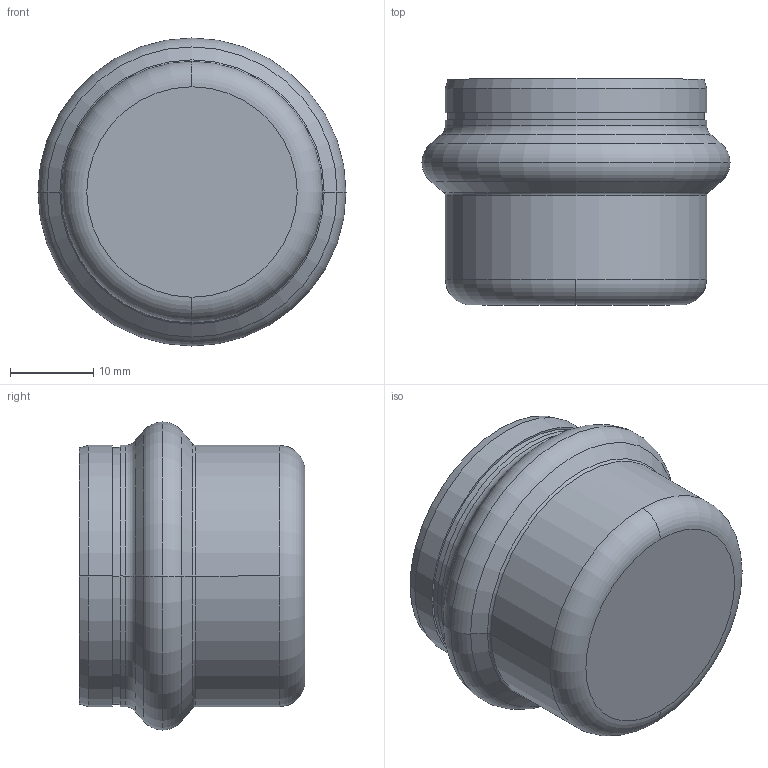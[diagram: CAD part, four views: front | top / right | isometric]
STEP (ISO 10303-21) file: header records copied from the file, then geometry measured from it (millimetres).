
FILE_DESCRIPTION(('CoCreate Modeling STEP Export'),'2;1');
FILE_NAME('8301VW28.stp','2013-03-05T13:28:50',(''),(''),'CoCreate Modeling STEP processor for AP214 (Solid Model)','CoCreate Modeling 17.00A 17-Jun-2010 (C) Parametric Technology GmbH','');
FILE_SCHEMA(('AUTOMOTIVE_DESIGN { 1 0 10303 214 1 1 1 1 }'));
Length unit declared in the file: millimetre
Products named in the file (1): 8301VW28
Bounding box: 36.9 x 27.05 x 36.9 mm (x, y, z)
Volume: 6252.8 mm3; surface area: 6890.5 mm2
Topology: 1 solids, 1 shells, 42 faces, 86 edges, 52 vertices
Faces by surface type: cylinder 16, torus 10, plane 8, cone 8
Entity records: 916 total; most frequent: ORIENTED_EDGE 172, DIRECTION 142, CARTESIAN_POINT 135, EDGE_CURVE 86, AXIS2_PLACEMENT_3D 59, VERTEX_POINT 52, EDGE_LOOP 48, FACE_OUTER_BOUND 42
